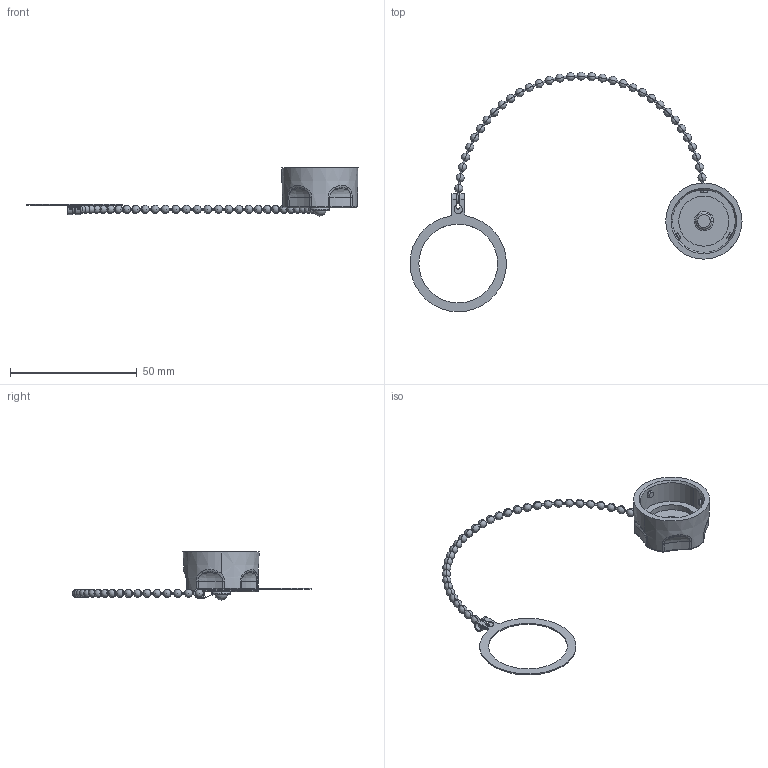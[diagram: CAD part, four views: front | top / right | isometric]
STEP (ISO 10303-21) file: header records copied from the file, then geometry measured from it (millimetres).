
FILE_DESCRIPTION (( 'STEP AP203' ), '1' );
FILE_NAME ('DUST_CAP_RJ45FIP67.step', '2012-07-05T19:54:37', ( 'Turck User' ), ( '' ), 'SwSTEP 2.0', 'SolidWorks 2012', '' );
FILE_SCHEMA (( 'CONFIG_CONTROL_DESIGN' ));
Length unit declared in the file: millimetre
Products named in the file (1): DUST_CAP_RJ45FIP67
Bounding box: 131.14 x 94.61 x 18.96 mm (x, y, z)
Volume: 5676.4 mm3; surface area: 6332.2 mm2
Topology: 2 solids, 2 shells, 370 faces, 1218 edges, 775 vertices
Faces by surface type: torus 97, sphere 77, cylinder 70, bspline 61, plane 55, cone 10
Entity records: 16386 total; most frequent: CARTESIAN_POINT 7859, ORIENTED_EDGE 2060, DIRECTION 1450, EDGE_CURVE 1030, VERTEX_POINT 662, AXIS2_PLACEMENT_3D 647, B_SPLINE_CURVE_WITH_KNOTS 473, EDGE_LOOP 388
